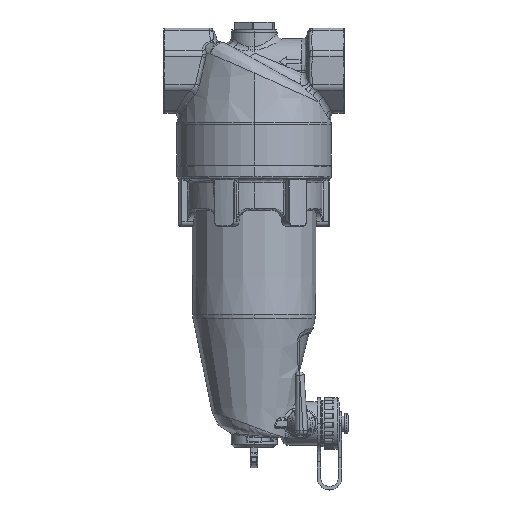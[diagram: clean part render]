
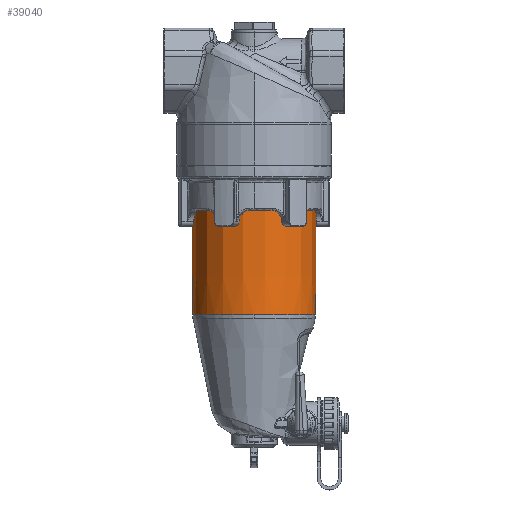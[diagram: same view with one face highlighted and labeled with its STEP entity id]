
A CAD part, top view. The second image highlights one B-rep face of the part: STEP entity #39040.
In plain terms, the highlighted conical face has half-angle 0.333 degrees and reference radius 35.245 mm.
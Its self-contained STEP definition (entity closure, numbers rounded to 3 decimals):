
#2542 = ORIENTED_EDGE ( 'NONE', *, *, #55001, .T. ) ;
#3166 = CARTESIAN_POINT ( 'NONE',  ( 34.756, -138.221, 0. ) ) ;
#5896 = CARTESIAN_POINT ( 'NONE',  ( 0., -138.221, 0. ) ) ;
#6024 = CARTESIAN_POINT ( 'NONE',  ( 0., -138.221, 34.756 ) ) ;
#6525 = VECTOR ( 'NONE', #62763, 1000. ) ;
#10762 = DIRECTION ( 'NONE',  ( 0., 0., 1. ) ) ;
#11727 = DIRECTION ( 'NONE',  ( 0.006, 1., 0. ) ) ;
#12278 = AXIS2_PLACEMENT_3D ( 'NONE', #37599, #24009, #32748 ) ;
#14541 = DIRECTION ( 'NONE',  ( -1., 0., 0. ) ) ;
#19774 = CARTESIAN_POINT ( 'NONE',  ( 35.245, -54., 0. ) ) ;
#19879 = CARTESIAN_POINT ( 'NONE',  ( -34.756, -138.221, 0. ) ) ;
#20325 = EDGE_CURVE ( 'NONE', #25608, #22336, #42708, .T. ) ;
#21525 = EDGE_CURVE ( 'NONE', #32388, #22336, #60241, .T. ) ;
#21755 = AXIS2_PLACEMENT_3D ( 'NONE', #51741, #27211, #22350 ) ;
#22336 = VERTEX_POINT ( 'NONE', #38395 ) ;
#22350 = DIRECTION ( 'NONE',  ( 0., 0., 1. ) ) ;
#22545 = VERTEX_POINT ( 'NONE', #6024 ) ;
#24009 = DIRECTION ( 'NONE',  ( 0., 1., 0. ) ) ;
#25608 = VERTEX_POINT ( 'NONE', #19879 ) ;
#26283 = DIRECTION ( 'NONE',  ( 0., 1., 0. ) ) ;
#27211 = DIRECTION ( 'NONE',  ( 0., 1., 0. ) ) ;
#32388 = VERTEX_POINT ( 'NONE', #19774 ) ;
#32655 = CARTESIAN_POINT ( 'NONE',  ( 0., -54., 0. ) ) ;
#32748 = DIRECTION ( 'NONE',  ( -1., 0., 0. ) ) ;
#33071 = FACE_OUTER_BOUND ( 'NONE', #45471, .T. ) ;
#34254 = DIRECTION ( 'NONE',  ( 0., -1., 0. ) ) ;
#37066 = VECTOR ( 'NONE', #11727, 1000. ) ;
#37599 = CARTESIAN_POINT ( 'NONE',  ( 0., -54., 0. ) ) ;
#38395 = CARTESIAN_POINT ( 'NONE',  ( -35.245, -54., 0. ) ) ;
#39040 = ADVANCED_FACE ( 'NONE', ( #33071 ), #45293, .T. ) ;
#39438 = CIRCLE ( 'NONE', #41504, 34.756 ) ;
#39600 = AXIS2_PLACEMENT_3D ( 'NONE', #32655, #34254, #14541 ) ;
#41504 = AXIS2_PLACEMENT_3D ( 'NONE', #5896, #26283, #10762 ) ;
#42708 = LINE ( 'NONE', #57249, #6525 ) ;
#45293 = CONICAL_SURFACE ( 'NONE', #12278, 35.245, 0.006 ) ;
#45471 = EDGE_LOOP ( 'NONE', ( #2542, #50922, #59882, #51841, #48713 ) ) ;
#48713 = ORIENTED_EDGE ( 'NONE', *, *, #20325, .F. ) ;
#50800 = LINE ( 'NONE', #55979, #37066 ) ;
#50922 = ORIENTED_EDGE ( 'NONE', *, *, #63404, .T. ) ;
#51741 = CARTESIAN_POINT ( 'NONE',  ( 0., -138.221, 0. ) ) ;
#51841 = ORIENTED_EDGE ( 'NONE', *, *, #21525, .T. ) ;
#52746 = VERTEX_POINT ( 'NONE', #3166 ) ;
#55001 = EDGE_CURVE ( 'NONE', #25608, #22545, #55825, .T. ) ;
#55825 = CIRCLE ( 'NONE', #21755, 34.756 ) ;
#55979 = CARTESIAN_POINT ( 'NONE',  ( 35.245, -54., 0. ) ) ;
#57035 = EDGE_CURVE ( 'NONE', #52746, #32388, #50800, .T. ) ;
#57249 = CARTESIAN_POINT ( 'NONE',  ( -35.245, -54., 0. ) ) ;
#59882 = ORIENTED_EDGE ( 'NONE', *, *, #57035, .T. ) ;
#60241 = CIRCLE ( 'NONE', #39600, 35.245 ) ;
#62763 = DIRECTION ( 'NONE',  ( -0.006, 1., 0. ) ) ;
#63404 = EDGE_CURVE ( 'NONE', #22545, #52746, #39438, .T. ) ;
